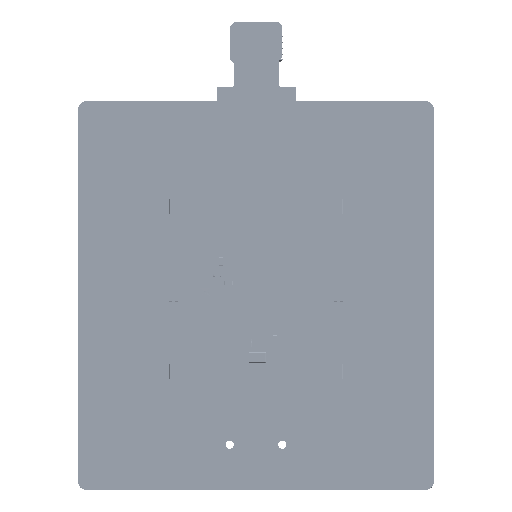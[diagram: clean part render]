
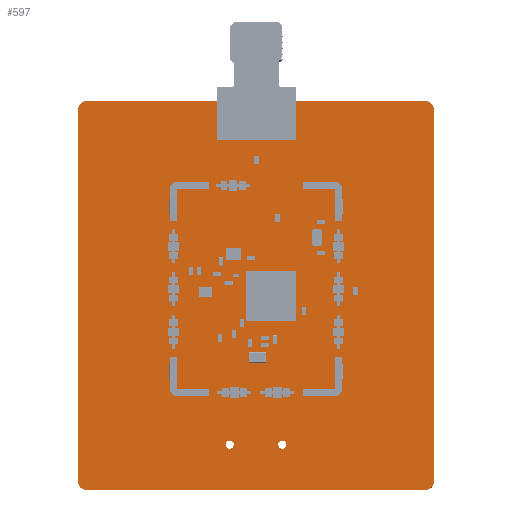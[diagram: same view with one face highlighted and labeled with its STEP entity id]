
A CAD part, top view. The second image highlights one B-rep face of the part: STEP entity #597.
In plain terms, the highlighted planar face has unit normal (0, 0, 1).
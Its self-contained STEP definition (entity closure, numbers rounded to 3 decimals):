
#260 = VERTEX_POINT('',#261);
#261 = CARTESIAN_POINT('',(0.,1.,1.016));
#267 = EDGE_CURVE('',#260,#268,#270,.T.);
#268 = VERTEX_POINT('',#269);
#269 = CARTESIAN_POINT('',(1.,0.,1.016));
#270 = CIRCLE('',#271,1.);
#271 = AXIS2_PLACEMENT_3D('',#272,#273,#274);
#272 = CARTESIAN_POINT('',(1.,1.,1.016));
#273 = DIRECTION('',(0.,0.,1.));
#274 = DIRECTION('',(-1.,0.,0.));
#300 = EDGE_CURVE('',#268,#301,#303,.T.);
#301 = VERTEX_POINT('',#302);
#302 = CARTESIAN_POINT('',(42.,0.,1.016));
#303 = LINE('',#304,#305);
#304 = CARTESIAN_POINT('',(1.,0.,1.016));
#305 = VECTOR('',#306,1.);
#306 = DIRECTION('',(1.,0.,0.));
#331 = EDGE_CURVE('',#301,#332,#334,.T.);
#332 = VERTEX_POINT('',#333);
#333 = CARTESIAN_POINT('',(43.,1.,1.016));
#334 = CIRCLE('',#335,1.);
#335 = AXIS2_PLACEMENT_3D('',#336,#337,#338);
#336 = CARTESIAN_POINT('',(42.,1.,1.016));
#337 = DIRECTION('',(0.,0.,1.));
#338 = DIRECTION('',(0.,-1.,0.));
#364 = EDGE_CURVE('',#332,#365,#367,.T.);
#365 = VERTEX_POINT('',#366);
#366 = CARTESIAN_POINT('',(43.,46.,1.016));
#367 = LINE('',#368,#369);
#368 = CARTESIAN_POINT('',(43.,1.,1.016));
#369 = VECTOR('',#370,1.);
#370 = DIRECTION('',(0.,1.,0.));
#395 = EDGE_CURVE('',#365,#396,#398,.T.);
#396 = VERTEX_POINT('',#397);
#397 = CARTESIAN_POINT('',(42.,47.,1.016));
#398 = CIRCLE('',#399,1.);
#399 = AXIS2_PLACEMENT_3D('',#400,#401,#402);
#400 = CARTESIAN_POINT('',(42.,46.,1.016));
#401 = DIRECTION('',(0.,0.,1.));
#402 = DIRECTION('',(1.,0.,-0.));
#428 = EDGE_CURVE('',#396,#429,#431,.T.);
#429 = VERTEX_POINT('',#430);
#430 = CARTESIAN_POINT('',(1.,47.,1.016));
#431 = LINE('',#432,#433);
#432 = CARTESIAN_POINT('',(42.,47.,1.016));
#433 = VECTOR('',#434,1.);
#434 = DIRECTION('',(-1.,0.,0.));
#459 = EDGE_CURVE('',#429,#460,#462,.T.);
#460 = VERTEX_POINT('',#461);
#461 = CARTESIAN_POINT('',(0.,46.,1.016));
#462 = CIRCLE('',#463,1.);
#463 = AXIS2_PLACEMENT_3D('',#464,#465,#466);
#464 = CARTESIAN_POINT('',(1.,46.,1.016));
#465 = DIRECTION('',(0.,0.,1.));
#466 = DIRECTION('',(0.,1.,0.));
#492 = EDGE_CURVE('',#460,#260,#493,.T.);
#493 = LINE('',#494,#495);
#494 = CARTESIAN_POINT('',(0.,46.,1.016));
#495 = VECTOR('',#496,1.);
#496 = DIRECTION('',(0.,-1.,0.));
#516 = VERTEX_POINT('',#517);
#517 = CARTESIAN_POINT('',(18.825,5.465,1.016));
#523 = EDGE_CURVE('',#516,#516,#524,.T.);
#524 = CIRCLE('',#525,0.5);
#525 = AXIS2_PLACEMENT_3D('',#526,#527,#528);
#526 = CARTESIAN_POINT('',(18.325,5.465,1.016));
#527 = DIRECTION('',(0.,0.,1.));
#528 = DIRECTION('',(1.,0.,-0.));
#549 = VERTEX_POINT('',#550);
#550 = CARTESIAN_POINT('',(25.175,5.465,1.016));
#556 = EDGE_CURVE('',#549,#549,#557,.T.);
#557 = CIRCLE('',#558,0.5);
#558 = AXIS2_PLACEMENT_3D('',#559,#560,#561);
#559 = CARTESIAN_POINT('',(24.675,5.465,1.016));
#560 = DIRECTION('',(0.,0.,1.));
#561 = DIRECTION('',(1.,0.,-0.));
#597 = ADVANCED_FACE('',(#598,#608,#611),#614,.T.);
#598 = FACE_BOUND('',#599,.T.);
#599 = EDGE_LOOP('',(#600,#601,#602,#603,#604,#605,#606,#607));
#600 = ORIENTED_EDGE('',*,*,#267,.T.);
#601 = ORIENTED_EDGE('',*,*,#300,.T.);
#602 = ORIENTED_EDGE('',*,*,#331,.T.);
#603 = ORIENTED_EDGE('',*,*,#364,.T.);
#604 = ORIENTED_EDGE('',*,*,#395,.T.);
#605 = ORIENTED_EDGE('',*,*,#428,.T.);
#606 = ORIENTED_EDGE('',*,*,#459,.T.);
#607 = ORIENTED_EDGE('',*,*,#492,.T.);
#608 = FACE_BOUND('',#609,.T.);
#609 = EDGE_LOOP('',(#610));
#610 = ORIENTED_EDGE('',*,*,#523,.F.);
#611 = FACE_BOUND('',#612,.T.);
#612 = EDGE_LOOP('',(#613));
#613 = ORIENTED_EDGE('',*,*,#556,.F.);
#614 = PLANE('',#615);
#615 = AXIS2_PLACEMENT_3D('',#616,#617,#618);
#616 = CARTESIAN_POINT('',(21.5,23.5,1.016));
#617 = DIRECTION('',(0.,0.,1.));
#618 = DIRECTION('',(1.,0.,-0.));
